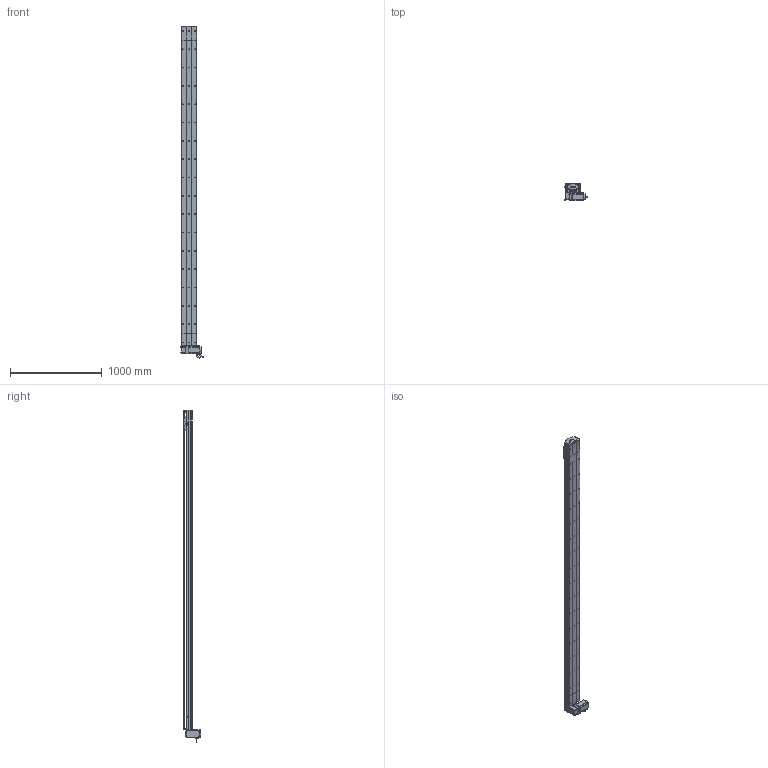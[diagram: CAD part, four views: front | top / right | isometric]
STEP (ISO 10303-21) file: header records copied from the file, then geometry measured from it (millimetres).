
FILE_DESCRIPTION (( 'STEP AP214' ), '1' );
FILE_NAME ('D17 TBH RU S3200.STEP', '2010-06-30T09:11:43', ( 'Christophe Gaillard' ), ( 'SGA' ), 'SwSTEP 2.0', 'SolidWorks 2010', '' );
FILE_SCHEMA (( 'AUTOMOTIVE_DESIGN' ));
Length unit declared in the file: millimetre
Products named in the file (40): cache D17_Default; vis M5 L5_Default; Arbre+rail head D17B; Vis M5 L16-2_Default; guide D17; Chariot D17; chariot D17S_Default; vis M5 L25_Default; poulie tail_Default; plaque de  bout tail D17B_Default; Rail D17B; vis M5 L8 90°_Default; couvercle D17B_Default; Couroie tail D17B_Default; tete d''axe poulie D17B; corpl tail D17B_Default; Tail D17B_Default; Renvoi RU_Default; cache arbre D17_Default; vis M5 L70_Default; Plaque racord D17_Default; Moteur motionking 90BLDC125A-640; corpl head D17 _Default; couvercle D17B head_Default; plaque de  bout head D17B RU_Default; vis M5 L16_Default; couroie head D17_Default; corp D17B 3200_Default; D17 TBH RU S3200; couvercle D17B course L3200_Default; course 3200 D17B_Default; Head RU D17B_Default; vis M5 L12_Default; corps 90BLDC125A-640; Couroie+ rail D17 Course 3200 ; avant 90BLDC125A-640; poulie head_Default; codeur 90BLDC125-640; Conecteur2_Default; Conecteur_Default
Assembly tree (70 placements, depth 4):
  D17 TBH RU S3200
    course 3200 D17B_Default
      corp D17B 3200_Default
      Couroie+ rail D17 Course 3200 
      couvercle D17B course L3200_Default
    Tail D17B_Default
      plaque de  bout tail D17B_Default
      poulie tail_Default
      vis M5 L12_Default  x4
      Rail D17B
      couvercle D17B_Default
      vis M5 L8 90°_Default  x2
      corpl tail D17B_Default
      Couroie tail D17B_Default
      vis M5 L25_Default  x2
      tete d''axe poulie D17B
    Head RU D17B_Default
      vis M5 L12_Default  x8
      vis M5 L16_Default  x2
      vis M5 L5_Default  x4
      couroie head D17_Default
      Vis M5 L16-2_Default  x4
      cache D17_Default  x2
      Plaque racord D17_Default
      vis M5 L70_Default  x4
      plaque de  bout head D17B RU_Default
      Moteur motionking 90BLDC125A-640
        Conecteur_Default
        avant 90BLDC125A-640
        Conecteur2_Default
        corps 90BLDC125A-640
        codeur 90BLDC125-640
      cache arbre D17_Default
      Renvoi RU_Default
      corpl head D17 _Default
      vis M5 L25_Default  x2
      couvercle D17B head_Default
      Arbre+rail head D17B
      poulie head_Default
    chariot D17S_Default
      guide D17  x2
      vis M5 L12_Default  x4
      Chariot D17
Bounding box: 245.2 x 188.65 x 3623.95 mm (x, y, z)
Volume: 20529159.6 mm3; surface area: 5995574.2 mm2
Topology: 94 solids, 94 shells, 2785 faces, 7129 edges, 4586 vertices
Faces by surface type: plane 1607, cylinder 865, bspline 136, cone 88, torus 85, sphere 4
Entity records: 88296 total; most frequent: CARTESIAN_POINT 25845, ORIENTED_EDGE 11030, DIRECTION 10444, EDGE_CURVE 5515, VERTEX_POINT 3610, LINE 3566, VECTOR 3566, AXIS2_PLACEMENT_3D 3439
